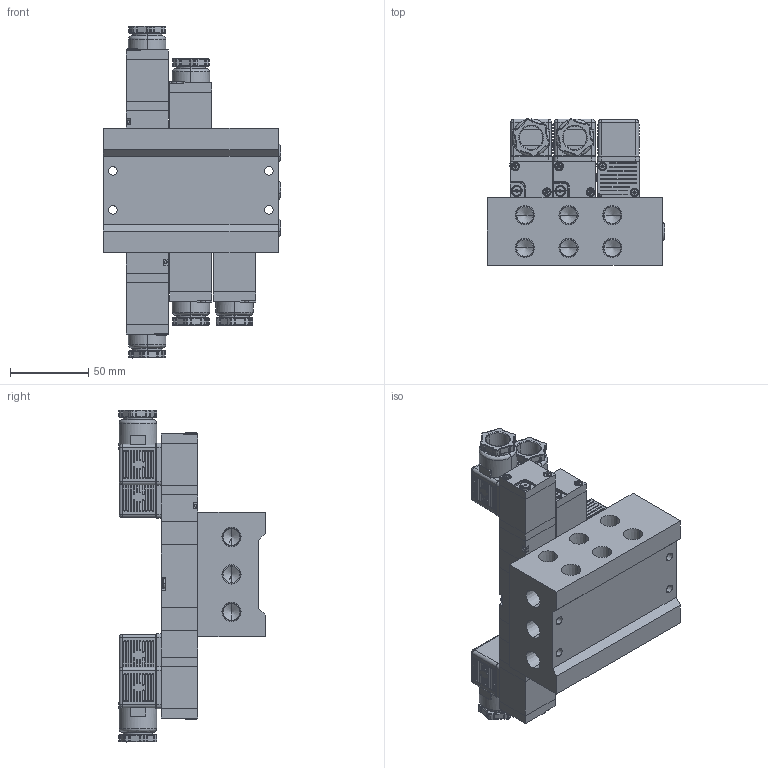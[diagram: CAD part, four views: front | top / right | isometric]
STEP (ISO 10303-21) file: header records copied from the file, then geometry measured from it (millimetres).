
FILE_DESCRIPTION (( 'STEP AP203' ), '1' );
FILE_NAME ('MFS#-PC06-02-C.STEP', '2016-02-04T05:35:37', ( 'Sam Lin' ), ( '' ), 'SwSTEP 2.0', 'SolidWorks 2013', '' );
FILE_SCHEMA (( 'CONFIG_CONTROL_DESIGN' ));
Length unit declared in the file: metre
Products named in the file (16): PC06-MARK; PCS2406-5; PCS2406-3-C; PCS2406-6; PCS2406-10; PC6-M3; PCS2406-11-T=6; PCS2406-3-小圓珠; 承頭; PCS2406-7; MFS#-PC06-02-C; PC6-M4; PCS2406-8; MFS#-PC06-02; PCS2406-9; PCS2406-4
Assembly tree (69 placements, depth 2):
  MFS#-PC06-02-C
    MFS#-PC06-02
    PCS2406-4  x3
    PCS2406-5  x5
    PCS2406-6
    PC6-M3  x12
    PCS2406-3-小圓珠  x6
    PCS2406-7  x5
    PC6-M4  x11
    PCS2406-8  x5
    PCS2406-9  x5
    PC06-MARK  x3
    PCS2406-3-C  x5
    PCS2406-10  x2
    PCS2406-11-T=6  x2
    承頭  x3
Bounding box: 113.51 x 93.64 x 212.7 mm (x, y, z)
Volume: 737197.1 mm3; surface area: 161717.7 mm2
Topology: 87 solids, 87 shells, 3191 faces, 8194 edges, 4649 vertices
Faces by surface type: plane 1151, bspline 927, cylinder 860, cone 253
Entity records: 31403 total; most frequent: CARTESIAN_POINT 12220, ORIENTED_EDGE 3392, DIRECTION 3188, EDGE_CURVE 1696, AXIS2_PLACEMENT_3D 1183, VERTEX_POINT 1078, EDGE_LOOP 828, LINE 822
